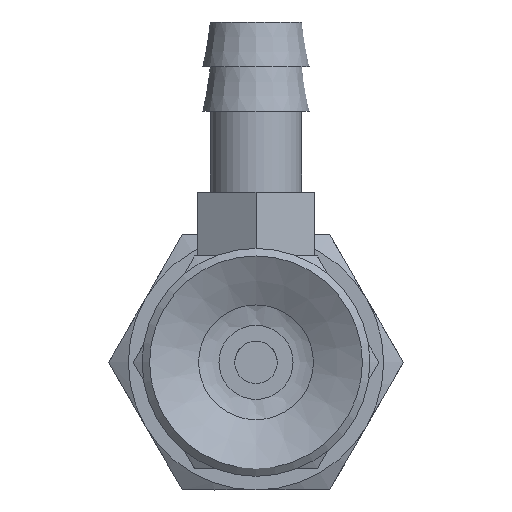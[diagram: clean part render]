
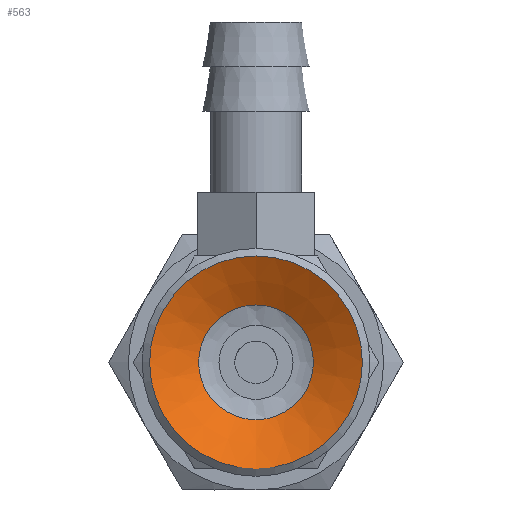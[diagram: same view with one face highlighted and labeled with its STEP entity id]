
A CAD part, front view. The second image highlights one B-rep face of the part: STEP entity #563.
In plain terms, the highlighted conical face has half-angle 61.39 degrees and reference radius 2.25 mm.
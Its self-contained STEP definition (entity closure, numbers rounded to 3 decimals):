
#563=ADVANCED_FACE('',(#853,#854),#855,.F.);
#853=FACE_BOUND('',#1188,.T.);
#854=FACE_OUTER_BOUND('',#1189,.T.);
#855=CONICAL_SURFACE('',#1190,2.25,1.071);
#1188=EDGE_LOOP('',(#2020));
#1189=EDGE_LOOP('',(#2021));
#1190=AXIS2_PLACEMENT_3D('',#2022,#2023,#2024);
#2020=ORIENTED_EDGE('',*,*,#2375,.T.);
#2021=ORIENTED_EDGE('',*,*,#2370,.T.);
#2022=CARTESIAN_POINT('',(0.0,1.5,0.0));
#2023=DIRECTION('',(-0.0,-1.0,0.));
#2024=DIRECTION('',(0.0,0.,-1.0));
#2370=EDGE_CURVE('',#2747,#2747,#2748,.T.);
#2375=EDGE_CURVE('',#2757,#2757,#2758,.T.);
#2747=VERTEX_POINT('',#3579);
#2748=CIRCLE('',#3580,5.);
#2757=VERTEX_POINT('',#3589);
#2758=CIRCLE('',#3590,2.698);
#3579=CARTESIAN_POINT('',(0.0,0.,-5.));
#3580=AXIS2_PLACEMENT_3D('',#3954,#3955,#3956);
#3589=CARTESIAN_POINT('',(0.0,1.256,-2.698));
#3590=AXIS2_PLACEMENT_3D('',#3969,#3970,#3971);
#3954=CARTESIAN_POINT('',(0.0,0.0,0.0));
#3955=DIRECTION('',(0.0,-1.0,0.));
#3956=DIRECTION('',(0.0,0.,-1.0));
#3969=CARTESIAN_POINT('',(0.0,1.256,0.0));
#3970=DIRECTION('',(0.0,1.0,0.));
#3971=DIRECTION('',(0.0,0.,-1.0));
